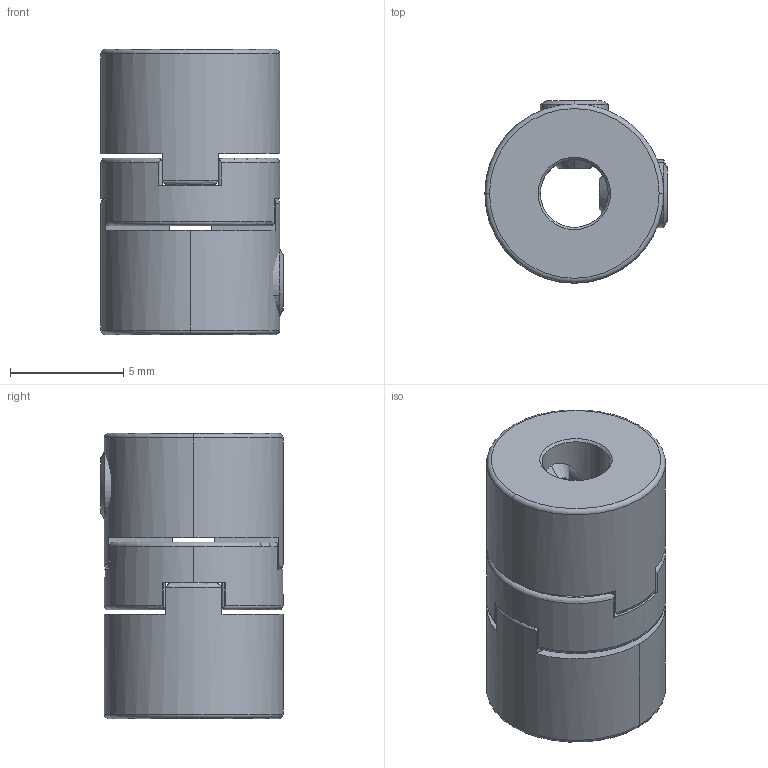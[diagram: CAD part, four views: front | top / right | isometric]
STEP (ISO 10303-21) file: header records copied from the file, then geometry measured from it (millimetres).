
FILE_DESCRIPTION (( 'STEP AP214' ), '1' );
FILE_NAME ('SOH-8L ASS''Y.STEP', '2016-02-05T05:26:25', ( '' ), ( '' ), 'SwSTEP 2.0', 'SolidWorks 2015', '' );
FILE_SCHEMA (( 'AUTOMOTIVE_DESIGN' ));
Length unit declared in the file: millimetre
Products named in the file (1): SOH-8L ASS''Y
Bounding box: 8.05 x 8.05 x 12.6 mm (x, y, z)
Surface area: 737.8 mm2 (no closed solid volume)
Topology: 0 solids, 5 shells, 101 faces, 294 edges, 195 vertices
Faces by surface type: plane 44, cylinder 28, cone 16, torus 13
Entity records: 4652 total; most frequent: CARTESIAN_POINT 957, DIRECTION 540, ORIENTED_EDGE 484, EDGE_CURVE 290, AXIS2_PLACEMENT_3D 198, VERTEX_POINT 195, VECTOR 144, LINE 144
